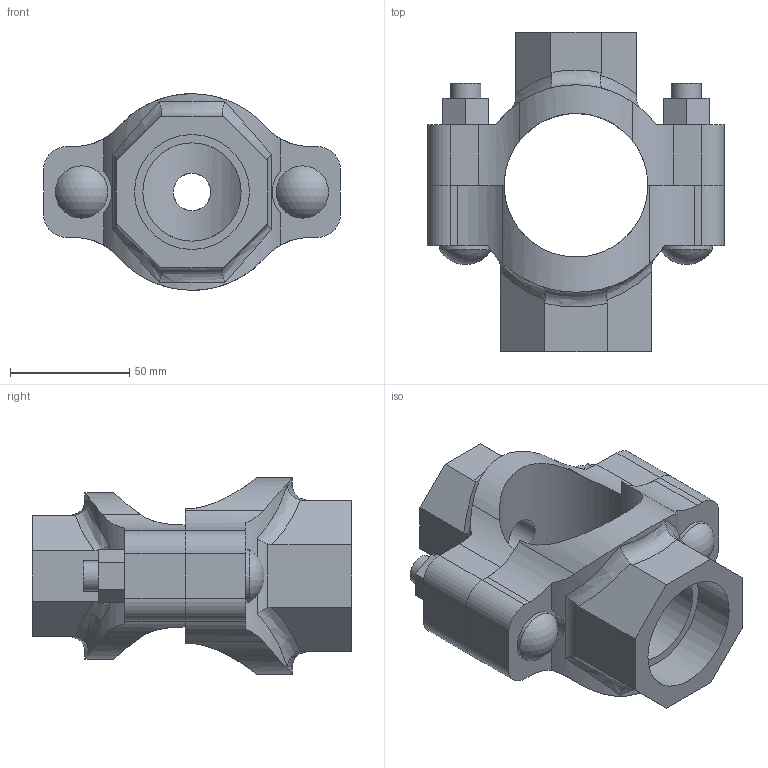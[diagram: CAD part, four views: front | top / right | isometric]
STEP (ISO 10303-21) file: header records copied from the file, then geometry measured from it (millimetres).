
FILE_DESCRIPTION(/* description */ ('VIC MECH-T BRANCH OUTLET CROSS STYLE 920N (THD)','CAx-IF Rec.Pracs.---Representation and Presentation of Product Manufacturing Information (PMI)---4.0---2014-10-13'),/* implementation_level */ '2;1');
FILE_NAME(/* name */ 'C:\Users\Vjadhav\AppData\Roaming\Autodesk\ApplicationPlugins\Back Up\Victaulic_IPS_Mechanical-Cross Outlet_Style 920N (FPT)\Victaulic_IPS_Mechanical-Cross Outlet_02.0x0.5x01.5 (50x15x40).stp',/* time_stamp */ '2020-08-06T18:55:53+05:00',/* author */ ('Vjadhav'),/* organization */ ('Victaulic'),/* preprocessor_version */ 'ST-DEVELOPER v17.2',/* originating_system */ 'Autodesk Inventor 2019',/* authorisation */ '');
FILE_SCHEMA (('AP242_MANAGED_MODEL_BASED_3D_ENGINEERING_MIM_LF { 1 0 10303 442 1 1 4 }'));
Length unit declared in the file: inch
Products named in the file (3): 920NT-02.0x0.5x01.5; 920NT-02.0x0.5; 920NT-02.0x01.5
Assembly tree (2 placements, depth 2):
  920NT-02.0x0.5x01.5
    920NT-02.0x0.5
    920NT-02.0x01.5
Bounding box: 124.71 x 134.11 x 82.55 mm (x, y, z)
Volume: 334457.7 mm3; surface area: 73162.2 mm2
Topology: 2 solids, 2 shells, 132 faces, 350 edges, 236 vertices
Faces by surface type: plane 68, cylinder 50, bspline 8, torus 4, sphere 2
Full cylindrical faces by diameter (mm): 12.7 x4, 15.799 x1, 21.336 x1, 21.982 x2, 41.275 x1, 48.26 x1
Entity records: 5084 total; most frequent: CARTESIAN_POINT 1559, ORIENTED_EDGE 700, DIRECTION 656, EDGE_CURVE 350, VERTEX_POINT 236, AXIS2_PLACEMENT_3D 235, LINE 186, VECTOR 186
